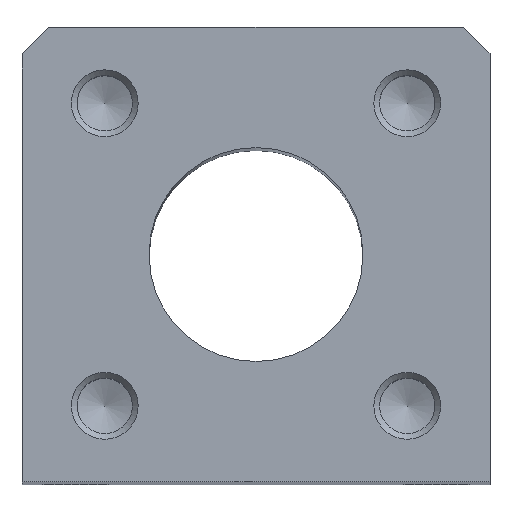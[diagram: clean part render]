
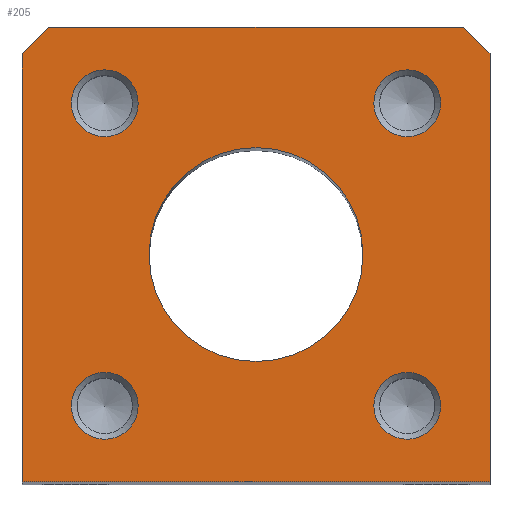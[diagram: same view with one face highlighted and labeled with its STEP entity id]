
A CAD part, top view. The second image highlights one B-rep face of the part: STEP entity #205.
In plain terms, the highlighted planar face has unit normal (0, 0, 1).
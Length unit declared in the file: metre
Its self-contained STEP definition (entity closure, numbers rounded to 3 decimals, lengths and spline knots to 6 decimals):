
#205 = ADVANCED_FACE( '', ( #466, #467, #468, #469, #470, #471 ), #472, .F. );
#466 = FACE_BOUND( '', #735, .T. );
#467 = FACE_BOUND( '', #736, .T. );
#468 = FACE_BOUND( '', #737, .T. );
#469 = FACE_BOUND( '', #738, .T. );
#470 = FACE_BOUND( '', #739, .T. );
#471 = FACE_OUTER_BOUND( '', #740, .T. );
#472 = PLANE( '', #741 );
#735 = EDGE_LOOP( '', ( #1137 ) );
#736 = EDGE_LOOP( '', ( #1138 ) );
#737 = EDGE_LOOP( '', ( #1139 ) );
#738 = EDGE_LOOP( '', ( #1140 ) );
#739 = EDGE_LOOP( '', ( #1141 ) );
#740 = EDGE_LOOP( '', ( #1142, #1143, #1144, #1145, #1146, #1147 ) );
#741 = AXIS2_PLACEMENT_3D( '', #1148, #1149, #1150 );
#1137 = ORIENTED_EDGE( '', *, *, #1273, .T. );
#1138 = ORIENTED_EDGE( '', *, *, #1303, .T. );
#1139 = ORIENTED_EDGE( '', *, *, #1329, .F. );
#1140 = ORIENTED_EDGE( '', *, *, #1305, .F. );
#1141 = ORIENTED_EDGE( '', *, *, #1321, .T. );
#1142 = ORIENTED_EDGE( '', *, *, #1220, .F. );
#1143 = ORIENTED_EDGE( '', *, *, #1190, .T. );
#1144 = ORIENTED_EDGE( '', *, *, #1314, .F. );
#1145 = ORIENTED_EDGE( '', *, *, #1309, .F. );
#1146 = ORIENTED_EDGE( '', *, *, #1223, .F. );
#1147 = ORIENTED_EDGE( '', *, *, #1216, .T. );
#1148 = CARTESIAN_POINT( '', ( -0.0175, 0.017, 0. ) );
#1149 = DIRECTION( '', ( 0., 0., -1. ) );
#1150 = DIRECTION( '', ( 0., 1., 0. ) );
#1190 = EDGE_CURVE( '', #1342, #1340, #1343, .F. );
#1216 = EDGE_CURVE( '', #1384, #1382, #1385, .F. );
#1220 = EDGE_CURVE( '', #1342, #1382, #1389, .T. );
#1223 = EDGE_CURVE( '', #1384, #1393, #1394, .T. );
#1273 = EDGE_CURVE( '', #1463, #1463, #1464, .T. );
#1303 = EDGE_CURVE( '', #1506, #1506, #1507, .T. );
#1305 = EDGE_CURVE( '', #1509, #1509, #1510, .T. );
#1309 = EDGE_CURVE( '', #1393, #1515, #1516, .T. );
#1314 = EDGE_CURVE( '', #1515, #1340, #1520, .T. );
#1321 = EDGE_CURVE( '', #1529, #1529, #1530, .T. );
#1329 = EDGE_CURVE( '', #1539, #1539, #1540, .T. );
#1340 = VERTEX_POINT( '', #1552 );
#1342 = VERTEX_POINT( '', #1555 );
#1343 = LINE( '', #1556, #1557 );
#1382 = VERTEX_POINT( '', #1598 );
#1384 = VERTEX_POINT( '', #1601 );
#1385 = LINE( '', #1602, #1603 );
#1389 = LINE( '', #1609, #1610 );
#1393 = VERTEX_POINT( '', #1615 );
#1394 = LINE( '', #1616, #1617 );
#1463 = VERTEX_POINT( '', #1689 );
#1464 = CIRCLE( '', #1690, 0.008 );
#1506 = VERTEX_POINT( '', #1732 );
#1507 = CIRCLE( '', #1733, 0.0025 );
#1509 = VERTEX_POINT( '', #1735 );
#1510 = CIRCLE( '', #1736, 0.0025 );
#1515 = VERTEX_POINT( '', #1741 );
#1516 = LINE( '', #1742, #1743 );
#1520 = LINE( '', #1748, #1749 );
#1529 = VERTEX_POINT( '', #1758 );
#1530 = CIRCLE( '', #1759, 0.0025 );
#1539 = VERTEX_POINT( '', #1768 );
#1540 = CIRCLE( '', #1769, 0.0025 );
#1552 = CARTESIAN_POINT( '', ( -0.0175, 0.015, 0. ) );
#1555 = CARTESIAN_POINT( '', ( -0.0155, 0.017, 0. ) );
#1556 = CARTESIAN_POINT( '', ( -0.0155, 0.017, 0. ) );
#1557 = VECTOR( '', #1778, 1. );
#1598 = CARTESIAN_POINT( '', ( 0.0155, 0.017, 0. ) );
#1601 = CARTESIAN_POINT( '', ( 0.0175, 0.015, 0. ) );
#1602 = CARTESIAN_POINT( '', ( 0.0175, 0.015, 0. ) );
#1603 = VECTOR( '', #1821, 1. );
#1609 = CARTESIAN_POINT( '', ( -0.0175, 0.017, 0. ) );
#1610 = VECTOR( '', #1824, 1. );
#1615 = CARTESIAN_POINT( '', ( 0.0175, -0.017, 0. ) );
#1616 = CARTESIAN_POINT( '', ( 0.0175, 0.017, 0. ) );
#1617 = VECTOR( '', #1826, 1. );
#1689 = CARTESIAN_POINT( '', ( -0.008, 0., 0. ) );
#1690 = AXIS2_PLACEMENT_3D( '', #1899, #1900, #1901 );
#1732 = CARTESIAN_POINT( '', ( -0.008814, -0.011314, 0. ) );
#1733 = AXIS2_PLACEMENT_3D( '', #1941, #1942, #1943 );
#1735 = CARTESIAN_POINT( '', ( -0.008814, 0.011314, 0. ) );
#1736 = AXIS2_PLACEMENT_3D( '', #1944, #1945, #1946 );
#1741 = CARTESIAN_POINT( '', ( -0.0175, -0.017, 0. ) );
#1742 = CARTESIAN_POINT( '', ( 0.0175, -0.017, 0. ) );
#1743 = VECTOR( '', #1950, 1. );
#1748 = CARTESIAN_POINT( '', ( -0.0175, -0.017, 0. ) );
#1749 = VECTOR( '', #1952, 1. );
#1758 = CARTESIAN_POINT( '', ( 0.008814, 0.011314, 0. ) );
#1759 = AXIS2_PLACEMENT_3D( '', #1959, #1960, #1961 );
#1768 = CARTESIAN_POINT( '', ( 0.008814, -0.011314, 0. ) );
#1769 = AXIS2_PLACEMENT_3D( '', #1965, #1966, #1967 );
#1778 = DIRECTION( '', ( 0.707, 0.707, 0. ) );
#1821 = DIRECTION( '', ( 0.707, -0.707, 0. ) );
#1824 = DIRECTION( '', ( 1., 0., 0. ) );
#1826 = DIRECTION( '', ( 0., -1., 0. ) );
#1899 = CARTESIAN_POINT( '', ( 0., 0., 0. ) );
#1900 = DIRECTION( '', ( 0., 0., -1. ) );
#1901 = DIRECTION( '', ( -1., 0., 0. ) );
#1941 = CARTESIAN_POINT( '', ( -0.011314, -0.011314, 0. ) );
#1942 = DIRECTION( '', ( 0., 0., -1. ) );
#1943 = DIRECTION( '', ( 1., 0., 0. ) );
#1944 = CARTESIAN_POINT( '', ( -0.011314, 0.011314, 0. ) );
#1945 = DIRECTION( '', ( 0., 0., 1. ) );
#1946 = DIRECTION( '', ( 1., 0., 0. ) );
#1950 = DIRECTION( '', ( -1., 0., 0. ) );
#1952 = DIRECTION( '', ( 0., 1., 0. ) );
#1959 = CARTESIAN_POINT( '', ( 0.011314, 0.011314, 0. ) );
#1960 = DIRECTION( '', ( 0., 0., -1. ) );
#1961 = DIRECTION( '', ( -1., 0., 0. ) );
#1965 = CARTESIAN_POINT( '', ( 0.011314, -0.011314, 0. ) );
#1966 = DIRECTION( '', ( 0., 0., 1. ) );
#1967 = DIRECTION( '', ( -1., 0., 0. ) );
